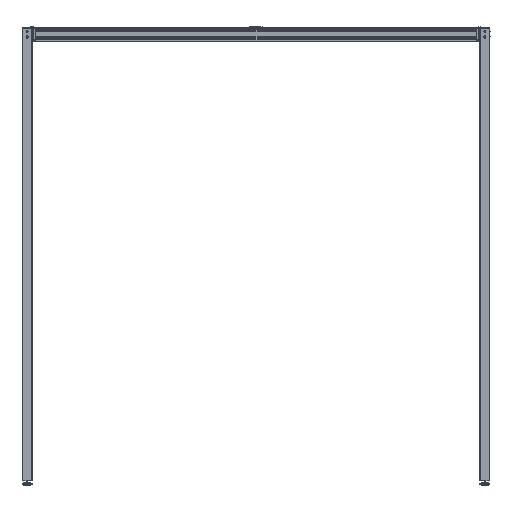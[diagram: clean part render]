
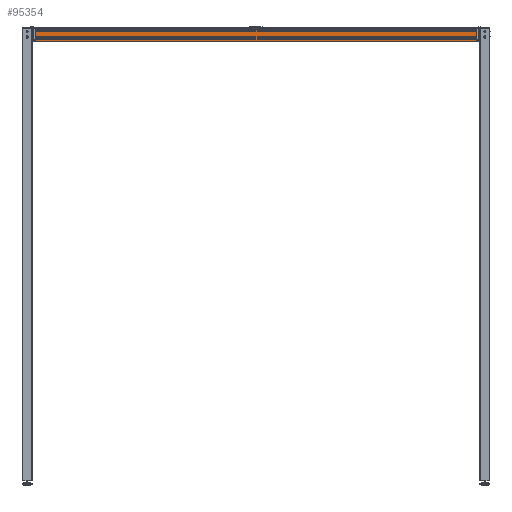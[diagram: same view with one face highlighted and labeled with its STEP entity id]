
A CAD part, left-side view. The second image highlights one B-rep face of the part: STEP entity #95354.
In plain terms, the highlighted planar face has unit normal (-1, 0, 0).
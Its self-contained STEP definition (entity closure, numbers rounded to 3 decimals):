
#10136 = DIRECTION ( 'NONE',  ( 0., -1., 0. ) ) ;
#10323 = VERTEX_POINT ( 'NONE', #42860 ) ;
#11313 = LINE ( 'NONE', #155782, #40371 ) ;
#12116 = VERTEX_POINT ( 'NONE', #103430 ) ;
#12621 = LINE ( 'NONE', #192953, #102085 ) ;
#14414 = ORIENTED_EDGE ( 'NONE', *, *, #210266, .F. ) ;
#40371 = VECTOR ( 'NONE', #10136, 1000. ) ;
#42860 = CARTESIAN_POINT ( 'NONE',  ( -591., -3708.5, 356.034 ) ) ;
#55272 = DIRECTION ( 'NONE',  ( 0., 0., -1. ) ) ;
#57533 = VECTOR ( 'NONE', #55272, 1000. ) ;
#62434 = EDGE_LOOP ( 'NONE', ( #108644, #14414, #167179, #67590 ) ) ;
#64141 = CARTESIAN_POINT ( 'NONE',  ( -591., -3708.5, 356.034 ) ) ;
#67590 = ORIENTED_EDGE ( 'NONE', *, *, #104194, .F. ) ;
#71522 = CARTESIAN_POINT ( 'NONE',  ( -591., -6404.5, 356.034 ) ) ;
#74351 = CARTESIAN_POINT ( 'NONE',  ( -591., -6404.5, 436.172 ) ) ;
#83428 = DIRECTION ( 'NONE',  ( 1., 0., 0. ) ) ;
#95354 = ADVANCED_FACE ( 'NONE', ( #172969 ), #224330, .F. ) ;
#102085 = VECTOR ( 'NONE', #158256, 1000. ) ;
#103430 = CARTESIAN_POINT ( 'NONE',  ( -591., -6404.5, 440.034 ) ) ;
#104194 = EDGE_CURVE ( 'NONE', #12116, #136567, #202099, .T. ) ;
#108053 = VERTEX_POINT ( 'NONE', #126490 ) ;
#108644 = ORIENTED_EDGE ( 'NONE', *, *, #136737, .F. ) ;
#126490 = CARTESIAN_POINT ( 'NONE',  ( -591., -3708.5, 440.034 ) ) ;
#136567 = VERTEX_POINT ( 'NONE', #71522 ) ;
#136737 = EDGE_CURVE ( 'NONE', #108053, #12116, #11313, .T. ) ;
#139234 = DIRECTION ( 'NONE',  ( 0., -1., 0. ) ) ;
#153864 = CARTESIAN_POINT ( 'NONE',  ( -591., -5056.5, 398.034 ) ) ;
#154553 = AXIS2_PLACEMENT_3D ( 'NONE', #153864, #83428, #155042 ) ;
#155042 = DIRECTION ( 'NONE',  ( 0., 0., -1. ) ) ;
#155782 = CARTESIAN_POINT ( 'NONE',  ( -591., -3708.5, 440.034 ) ) ;
#158256 = DIRECTION ( 'NONE',  ( 0., 0., 1. ) ) ;
#167179 = ORIENTED_EDGE ( 'NONE', *, *, #169682, .T. ) ;
#169682 = EDGE_CURVE ( 'NONE', #10323, #136567, #173971, .T. ) ;
#172969 = FACE_OUTER_BOUND ( 'NONE', #62434, .T. ) ;
#173971 = LINE ( 'NONE', #64141, #179975 ) ;
#179975 = VECTOR ( 'NONE', #139234, 1000. ) ;
#192953 = CARTESIAN_POINT ( 'NONE',  ( -591., -3708.5, 436.172 ) ) ;
#202099 = LINE ( 'NONE', #74351, #57533 ) ;
#210266 = EDGE_CURVE ( 'NONE', #10323, #108053, #12621, .T. ) ;
#224330 = PLANE ( 'NONE',  #154553 ) ;
